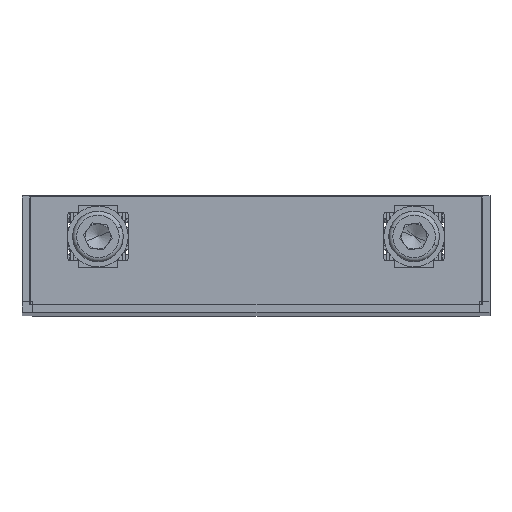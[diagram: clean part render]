
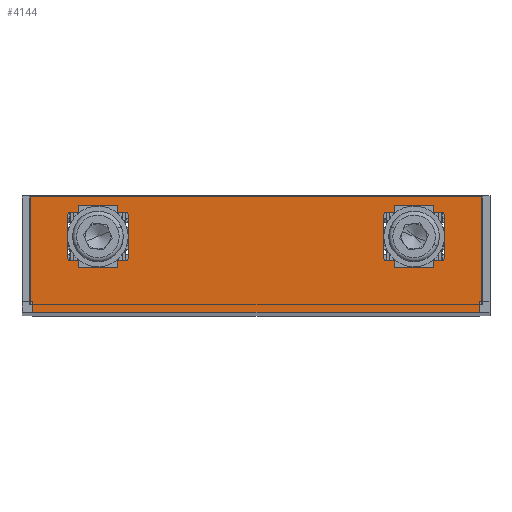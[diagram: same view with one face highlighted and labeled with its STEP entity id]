
A CAD part, top view. The second image highlights one B-rep face of the part: STEP entity #4144.
In plain terms, the highlighted planar face has unit normal (0, 0, 1).
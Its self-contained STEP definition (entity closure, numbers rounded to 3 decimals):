
#3686 = VERTEX_POINT('',#3687);
#3687 = CARTESIAN_POINT('',(-44.15,-1.5,207.));
#3766 = VERTEX_POINT('',#3767);
#3767 = CARTESIAN_POINT('',(44.15,-1.5,207.));
#3773 = EDGE_CURVE('',#3686,#3766,#3774,.T.);
#3774 = LINE('',#3775,#3776);
#3775 = CARTESIAN_POINT('',(-44.75,-1.5,207.));
#3776 = VECTOR('',#3777,1.);
#3777 = DIRECTION('',(1.,0.,0.));
#3790 = VERTEX_POINT('',#3791);
#3791 = CARTESIAN_POINT('',(44.15,0.6,207.));
#3797 = EDGE_CURVE('',#3790,#3766,#3798,.T.);
#3798 = LINE('',#3799,#3800);
#3799 = CARTESIAN_POINT('',(44.15,0.,207.));
#3800 = VECTOR('',#3801,1.);
#3801 = DIRECTION('',(-0.,-1.,-0.));
#3832 = EDGE_CURVE('',#3833,#3686,#3835,.T.);
#3833 = VERTEX_POINT('',#3834);
#3834 = CARTESIAN_POINT('',(-44.15,0.6,207.));
#3835 = LINE('',#3836,#3837);
#3836 = CARTESIAN_POINT('',(-44.15,0.6,207.));
#3837 = VECTOR('',#3838,1.);
#3838 = DIRECTION('',(-0.,-1.,-0.));
#3863 = EDGE_CURVE('',#3864,#3866,#3868,.T.);
#3864 = VERTEX_POINT('',#3865);
#3865 = CARTESIAN_POINT('',(-44.65,0.6,207.));
#3866 = VERTEX_POINT('',#3867);
#3867 = CARTESIAN_POINT('',(-44.65,21.5,207.));
#3868 = LINE('',#3869,#3870);
#3869 = CARTESIAN_POINT('',(-44.65,0.6,207.));
#3870 = VECTOR('',#3871,1.);
#3871 = DIRECTION('',(0.,1.,0.));
#3903 = EDGE_CURVE('',#3904,#3906,#3908,.T.);
#3904 = VERTEX_POINT('',#3905);
#3905 = CARTESIAN_POINT('',(44.65,0.6,207.));
#3906 = VERTEX_POINT('',#3907);
#3907 = CARTESIAN_POINT('',(44.65,21.5,207.));
#3908 = LINE('',#3909,#3910);
#3909 = CARTESIAN_POINT('',(44.65,0.6,207.));
#3910 = VECTOR('',#3911,1.);
#3911 = DIRECTION('',(0.,1.,0.));
#3950 = EDGE_CURVE('',#3906,#3866,#3951,.T.);
#3951 = LINE('',#3952,#3953);
#3952 = CARTESIAN_POINT('',(0.,21.5,207.));
#3953 = VECTOR('',#3954,1.);
#3954 = DIRECTION('',(-1.,0.,0.));
#4131 = EDGE_CURVE('',#3833,#3864,#4132,.T.);
#4132 = LINE('',#4133,#4134);
#4133 = CARTESIAN_POINT('',(-44.15,0.6,207.));
#4134 = VECTOR('',#4135,1.);
#4135 = DIRECTION('',(-1.,0.,0.));
#4144 = ADVANCED_FACE('',(#4145,#4215,#4285),#4300,.F.);
#4145 = FACE_BOUND('',#4146,.T.);
#4146 = EDGE_LOOP('',(#4147,#4157,#4166,#4174,#4183,#4191,#4200,#4208));
#4147 = ORIENTED_EDGE('',*,*,#4148,.F.);
#4148 = EDGE_CURVE('',#4149,#4151,#4153,.T.);
#4149 = VERTEX_POINT('',#4150);
#4150 = CARTESIAN_POINT('',(-36.75,8.75,207.));
#4151 = VERTEX_POINT('',#4152);
#4152 = CARTESIAN_POINT('',(-25.75,8.75,207.));
#4153 = LINE('',#4154,#4155);
#4154 = CARTESIAN_POINT('',(-27.,8.75,207.));
#4155 = VECTOR('',#4156,1.);
#4156 = DIRECTION('',(1.,-0.,-0.));
#4157 = ORIENTED_EDGE('',*,*,#4158,.F.);
#4158 = EDGE_CURVE('',#4159,#4149,#4161,.T.);
#4159 = VERTEX_POINT('',#4160);
#4160 = CARTESIAN_POINT('',(-37.25,9.25,207.));
#4161 = CIRCLE('',#4162,0.5);
#4162 = AXIS2_PLACEMENT_3D('',#4163,#4164,#4165);
#4163 = CARTESIAN_POINT('',(-36.75,9.25,207.));
#4164 = DIRECTION('',(0.,0.,1.));
#4165 = DIRECTION('',(-1.,0.,0.));
#4166 = ORIENTED_EDGE('',*,*,#4167,.F.);
#4167 = EDGE_CURVE('',#4168,#4159,#4170,.T.);
#4168 = VERTEX_POINT('',#4169);
#4169 = CARTESIAN_POINT('',(-37.25,17.75,207.));
#4170 = LINE('',#4171,#4172);
#4171 = CARTESIAN_POINT('',(-37.25,9.25,207.));
#4172 = VECTOR('',#4173,1.);
#4173 = DIRECTION('',(0.,-1.,-0.));
#4174 = ORIENTED_EDGE('',*,*,#4175,.F.);
#4175 = EDGE_CURVE('',#4176,#4168,#4178,.T.);
#4176 = VERTEX_POINT('',#4177);
#4177 = CARTESIAN_POINT('',(-36.75,18.25,207.));
#4178 = CIRCLE('',#4179,0.5);
#4179 = AXIS2_PLACEMENT_3D('',#4180,#4181,#4182);
#4180 = CARTESIAN_POINT('',(-36.75,17.75,207.));
#4181 = DIRECTION('',(0.,0.,1.));
#4182 = DIRECTION('',(-1.,0.,0.));
#4183 = ORIENTED_EDGE('',*,*,#4184,.F.);
#4184 = EDGE_CURVE('',#4185,#4176,#4187,.T.);
#4185 = VERTEX_POINT('',#4186);
#4186 = CARTESIAN_POINT('',(-25.75,18.25,207.));
#4187 = LINE('',#4188,#4189);
#4188 = CARTESIAN_POINT('',(-27.,18.25,207.));
#4189 = VECTOR('',#4190,1.);
#4190 = DIRECTION('',(-1.,0.,0.));
#4191 = ORIENTED_EDGE('',*,*,#4192,.F.);
#4192 = EDGE_CURVE('',#4193,#4185,#4195,.T.);
#4193 = VERTEX_POINT('',#4194);
#4194 = CARTESIAN_POINT('',(-25.25,17.75,207.));
#4195 = CIRCLE('',#4196,0.5);
#4196 = AXIS2_PLACEMENT_3D('',#4197,#4198,#4199);
#4197 = CARTESIAN_POINT('',(-25.75,17.75,207.));
#4198 = DIRECTION('',(0.,0.,1.));
#4199 = DIRECTION('',(-1.,0.,0.));
#4200 = ORIENTED_EDGE('',*,*,#4201,.F.);
#4201 = EDGE_CURVE('',#4202,#4193,#4204,.T.);
#4202 = VERTEX_POINT('',#4203);
#4203 = CARTESIAN_POINT('',(-25.25,9.25,207.));
#4204 = LINE('',#4205,#4206);
#4205 = CARTESIAN_POINT('',(-25.25,17.75,207.));
#4206 = VECTOR('',#4207,1.);
#4207 = DIRECTION('',(0.,1.,-0.));
#4208 = ORIENTED_EDGE('',*,*,#4209,.F.);
#4209 = EDGE_CURVE('',#4151,#4202,#4210,.T.);
#4210 = CIRCLE('',#4211,0.5);
#4211 = AXIS2_PLACEMENT_3D('',#4212,#4213,#4214);
#4212 = CARTESIAN_POINT('',(-25.75,9.25,207.));
#4213 = DIRECTION('',(0.,0.,1.));
#4214 = DIRECTION('',(-1.,0.,0.));
#4215 = FACE_BOUND('',#4216,.T.);
#4216 = EDGE_LOOP('',(#4217,#4227,#4236,#4244,#4253,#4261,#4270,#4278));
#4217 = ORIENTED_EDGE('',*,*,#4218,.F.);
#4218 = EDGE_CURVE('',#4219,#4221,#4223,.T.);
#4219 = VERTEX_POINT('',#4220);
#4220 = CARTESIAN_POINT('',(25.75,8.75,207.));
#4221 = VERTEX_POINT('',#4222);
#4222 = CARTESIAN_POINT('',(36.75,8.75,207.));
#4223 = LINE('',#4224,#4225);
#4224 = CARTESIAN_POINT('',(27.,8.75,207.));
#4225 = VECTOR('',#4226,1.);
#4226 = DIRECTION('',(1.,0.,0.));
#4227 = ORIENTED_EDGE('',*,*,#4228,.F.);
#4228 = EDGE_CURVE('',#4229,#4219,#4231,.T.);
#4229 = VERTEX_POINT('',#4230);
#4230 = CARTESIAN_POINT('',(25.25,9.25,207.));
#4231 = CIRCLE('',#4232,0.5);
#4232 = AXIS2_PLACEMENT_3D('',#4233,#4234,#4235);
#4233 = CARTESIAN_POINT('',(25.75,9.25,207.));
#4234 = DIRECTION('',(0.,0.,1.));
#4235 = DIRECTION('',(1.,0.,-0.));
#4236 = ORIENTED_EDGE('',*,*,#4237,.F.);
#4237 = EDGE_CURVE('',#4238,#4229,#4240,.T.);
#4238 = VERTEX_POINT('',#4239);
#4239 = CARTESIAN_POINT('',(25.25,17.75,207.));
#4240 = LINE('',#4241,#4242);
#4241 = CARTESIAN_POINT('',(25.25,17.75,207.));
#4242 = VECTOR('',#4243,1.);
#4243 = DIRECTION('',(0.,-1.,0.));
#4244 = ORIENTED_EDGE('',*,*,#4245,.F.);
#4245 = EDGE_CURVE('',#4246,#4238,#4248,.T.);
#4246 = VERTEX_POINT('',#4247);
#4247 = CARTESIAN_POINT('',(25.75,18.25,207.));
#4248 = CIRCLE('',#4249,0.5);
#4249 = AXIS2_PLACEMENT_3D('',#4250,#4251,#4252);
#4250 = CARTESIAN_POINT('',(25.75,17.75,207.));
#4251 = DIRECTION('',(0.,0.,1.));
#4252 = DIRECTION('',(1.,0.,-0.));
#4253 = ORIENTED_EDGE('',*,*,#4254,.F.);
#4254 = EDGE_CURVE('',#4255,#4246,#4257,.T.);
#4255 = VERTEX_POINT('',#4256);
#4256 = CARTESIAN_POINT('',(36.75,18.25,207.));
#4257 = LINE('',#4258,#4259);
#4258 = CARTESIAN_POINT('',(27.,18.25,207.));
#4259 = VECTOR('',#4260,1.);
#4260 = DIRECTION('',(-1.,0.,-0.));
#4261 = ORIENTED_EDGE('',*,*,#4262,.F.);
#4262 = EDGE_CURVE('',#4263,#4255,#4265,.T.);
#4263 = VERTEX_POINT('',#4264);
#4264 = CARTESIAN_POINT('',(37.25,17.75,207.));
#4265 = CIRCLE('',#4266,0.5);
#4266 = AXIS2_PLACEMENT_3D('',#4267,#4268,#4269);
#4267 = CARTESIAN_POINT('',(36.75,17.75,207.));
#4268 = DIRECTION('',(0.,0.,1.));
#4269 = DIRECTION('',(1.,0.,-0.));
#4270 = ORIENTED_EDGE('',*,*,#4271,.F.);
#4271 = EDGE_CURVE('',#4272,#4263,#4274,.T.);
#4272 = VERTEX_POINT('',#4273);
#4273 = CARTESIAN_POINT('',(37.25,9.25,207.));
#4274 = LINE('',#4275,#4276);
#4275 = CARTESIAN_POINT('',(37.25,9.25,207.));
#4276 = VECTOR('',#4277,1.);
#4277 = DIRECTION('',(0.,1.,0.));
#4278 = ORIENTED_EDGE('',*,*,#4279,.F.);
#4279 = EDGE_CURVE('',#4221,#4272,#4280,.T.);
#4280 = CIRCLE('',#4281,0.5);
#4281 = AXIS2_PLACEMENT_3D('',#4282,#4283,#4284);
#4282 = CARTESIAN_POINT('',(36.75,9.25,207.));
#4283 = DIRECTION('',(0.,0.,1.));
#4284 = DIRECTION('',(1.,0.,-0.));
#4285 = FACE_BOUND('',#4286,.T.);
#4286 = EDGE_LOOP('',(#4287,#4288,#4289,#4290,#4291,#4297,#4298,#4299));
#4287 = ORIENTED_EDGE('',*,*,#4131,.F.);
#4288 = ORIENTED_EDGE('',*,*,#3832,.T.);
#4289 = ORIENTED_EDGE('',*,*,#3773,.T.);
#4290 = ORIENTED_EDGE('',*,*,#3797,.F.);
#4291 = ORIENTED_EDGE('',*,*,#4292,.T.);
#4292 = EDGE_CURVE('',#3790,#3904,#4293,.T.);
#4293 = LINE('',#4294,#4295);
#4294 = CARTESIAN_POINT('',(44.15,0.6,207.));
#4295 = VECTOR('',#4296,1.);
#4296 = DIRECTION('',(1.,0.,0.));
#4297 = ORIENTED_EDGE('',*,*,#3903,.T.);
#4298 = ORIENTED_EDGE('',*,*,#3950,.T.);
#4299 = ORIENTED_EDGE('',*,*,#3863,.F.);
#4300 = PLANE('',#4301);
#4301 = AXIS2_PLACEMENT_3D('',#4302,#4303,#4304);
#4302 = CARTESIAN_POINT('',(0.,0.,207.));
#4303 = DIRECTION('',(0.,0.,-1.));
#4304 = DIRECTION('',(-1.,0.,0.));
